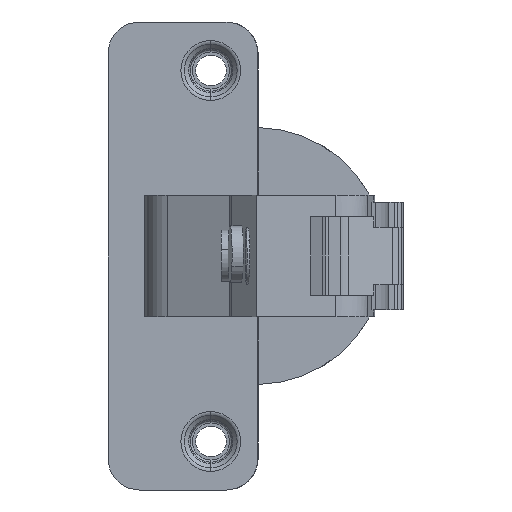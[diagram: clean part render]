
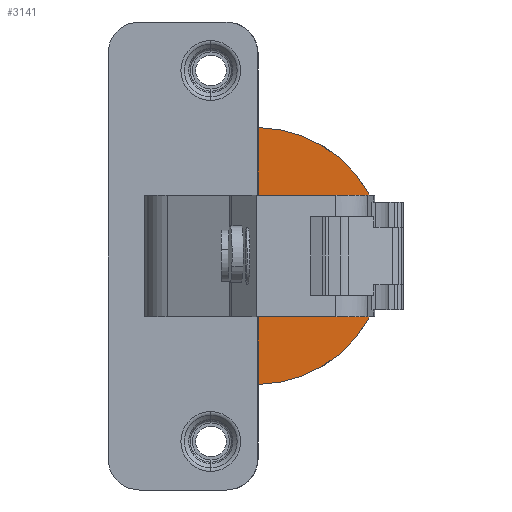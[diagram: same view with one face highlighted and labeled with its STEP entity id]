
A CAD part, left-side view. The second image highlights one B-rep face of the part: STEP entity #3141.
In plain terms, the highlighted planar face has unit normal (-1, 0.014, 0).
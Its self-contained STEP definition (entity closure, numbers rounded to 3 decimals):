
#27 = DIRECTION ( 'NONE',  ( 0., 0., 1. ) ) ;
#83 = LINE ( 'NONE', #1775, #2427 ) ;
#157 = VERTEX_POINT ( 'NONE', #497 ) ;
#174 = CARTESIAN_POINT ( 'NONE',  ( -3.973, 4.365, -5.55 ) ) ;
#243 = CARTESIAN_POINT ( 'NONE',  ( -3.953, 5.785, 0. ) ) ;
#264 = ORIENTED_EDGE ( 'NONE', *, *, #2730, .F. ) ;
#332 = VECTOR ( 'NONE', #1945, 1000. ) ;
#397 = CIRCLE ( 'NONE', #4514, 17.4 ) ;
#497 = CARTESIAN_POINT ( 'NONE',  ( -3.973, 4.365, 5.55 ) ) ;
#522 = AXIS2_PLACEMENT_3D ( 'NONE', #3849, #4982, #6177 ) ;
#541 = AXIS2_PLACEMENT_3D ( 'NONE', #6302, #6347, #2899 ) ;
#663 = DIRECTION ( 'NONE',  ( 0., 0., 1. ) ) ;
#727 = DIRECTION ( 'NONE',  ( 0., 0., -1. ) ) ;
#799 = ORIENTED_EDGE ( 'NONE', *, *, #2840, .F. ) ;
#825 = DIRECTION ( 'NONE',  ( -1., 0.014, 0. ) ) ;
#863 = DIRECTION ( 'NONE',  ( 0., 0., 1. ) ) ;
#906 = DIRECTION ( 'NONE',  ( 1., -0.014, 0. ) ) ;
#933 = VERTEX_POINT ( 'NONE', #7237 ) ;
#937 = LINE ( 'NONE', #1347, #332 ) ;
#1073 = EDGE_CURVE ( 'NONE', #5335, #6634, #1803, .T. ) ;
#1110 = VECTOR ( 'NONE', #727, 1000. ) ;
#1134 = ORIENTED_EDGE ( 'NONE', *, *, #4034, .F. ) ;
#1141 = ORIENTED_EDGE ( 'NONE', *, *, #3707, .F. ) ;
#1167 = CARTESIAN_POINT ( 'NONE',  ( -3.953, 5.785, 17.998 ) ) ;
#1182 = DIRECTION ( 'NONE',  ( 0., 0., 1. ) ) ;
#1199 = EDGE_CURVE ( 'NONE', #7214, #5230, #4086, .T. ) ;
#1275 = CARTESIAN_POINT ( 'NONE',  ( -3.956, 5.585, -17.998 ) ) ;
#1347 = CARTESIAN_POINT ( 'NONE',  ( -3.953, 5.785, -17.998 ) ) ;
#1413 = CIRCLE ( 'NONE', #3665, 18. ) ;
#1418 = CARTESIAN_POINT ( 'NONE',  ( -3.957, 5.499, 5.55 ) ) ;
#1420 = CARTESIAN_POINT ( 'NONE',  ( -3.973, 4.365, 6.95 ) ) ;
#1490 = CARTESIAN_POINT ( 'NONE',  ( -3.94, 6.685, 0. ) ) ;
#1499 = VERTEX_POINT ( 'NONE', #3732 ) ;
#1576 = VECTOR ( 'NONE', #6817, 1000. ) ;
#1596 = CARTESIAN_POINT ( 'NONE',  ( -4.125, -6.197, -4.5 ) ) ;
#1775 = CARTESIAN_POINT ( 'NONE',  ( -3.956, 5.585, 0. ) ) ;
#1798 = LINE ( 'NONE', #1167, #5490 ) ;
#1803 = LINE ( 'NONE', #5070, #4285 ) ;
#1945 = DIRECTION ( 'NONE',  ( 0.014, 1., 0. ) ) ;
#2000 = ORIENTED_EDGE ( 'NONE', *, *, #5112, .T. ) ;
#2074 = VECTOR ( 'NONE', #6659, 1000. ) ;
#2108 = CARTESIAN_POINT ( 'NONE',  ( -4.125, -6.197, 4.5 ) ) ;
#2157 = CARTESIAN_POINT ( 'NONE',  ( -3.953, 5.785, 0. ) ) ;
#2186 = AXIS2_PLACEMENT_3D ( 'NONE', #4639, #3550, #1182 ) ;
#2212 = EDGE_CURVE ( 'NONE', #5205, #1499, #6920, .T. ) ;
#2350 = ORIENTED_EDGE ( 'NONE', *, *, #3219, .F. ) ;
#2427 = VECTOR ( 'NONE', #663, 1000. ) ;
#2430 = CARTESIAN_POINT ( 'NONE',  ( -4.167, -9.175, 7.154 ) ) ;
#2730 = EDGE_CURVE ( 'NONE', #4095, #5205, #397, .T. ) ;
#2840 = EDGE_CURVE ( 'NONE', #6802, #4197, #5207, .T. ) ;
#2899 = DIRECTION ( 'NONE',  ( 0., 0., -1. ) ) ;
#2912 = ORIENTED_EDGE ( 'NONE', *, *, #4513, .F. ) ;
#2925 = CARTESIAN_POINT ( 'NONE',  ( -4.127, -6.33, 4.5 ) ) ;
#3006 = FACE_BOUND ( 'NONE', #4909, .T. ) ;
#3033 = VECTOR ( 'NONE', #6181, 1000. ) ;
#3123 = CARTESIAN_POINT ( 'NONE',  ( -4.155, -8.297, -4.5 ) ) ;
#3129 = VECTOR ( 'NONE', #863, 1000. ) ;
#3141 = ADVANCED_FACE ( 'NONE', ( #5980, #3006 ), #6376, .T. ) ;
#3142 = VECTOR ( 'NONE', #5931, 1000. ) ;
#3180 = CARTESIAN_POINT ( 'NONE',  ( -3.956, 5.585, 5.55 ) ) ;
#3219 = EDGE_CURVE ( 'NONE', #5794, #933, #83, .T. ) ;
#3306 = ORIENTED_EDGE ( 'NONE', *, *, #4161, .F. ) ;
#3334 = DIRECTION ( 'NONE',  ( -1., 0.014, 0. ) ) ;
#3365 = EDGE_CURVE ( 'NONE', #4087, #157, #5892, .T. ) ;
#3538 = CARTESIAN_POINT ( 'NONE',  ( -4.127, -6.33, -5.75 ) ) ;
#3550 = DIRECTION ( 'NONE',  ( -1., 0.014, 0. ) ) ;
#3594 = CARTESIAN_POINT ( 'NONE',  ( -3.956, 5.549, 17.998 ) ) ;
#3665 = AXIS2_PLACEMENT_3D ( 'NONE', #2157, #3334, #6677 ) ;
#3707 = EDGE_CURVE ( 'NONE', #933, #6812, #1798, .T. ) ;
#3732 = CARTESIAN_POINT ( 'NONE',  ( -4.177, -9.863, -8.893 ) ) ;
#3742 = CARTESIAN_POINT ( 'NONE',  ( -3.956, 5.585, -5.55 ) ) ;
#3834 = EDGE_CURVE ( 'NONE', #5335, #5230, #4358, .T. ) ;
#3849 = CARTESIAN_POINT ( 'NONE',  ( -4.162, -8.82, -8.3 ) ) ;
#3883 = CARTESIAN_POINT ( 'NONE',  ( -4.155, -8.297, 4.5 ) ) ;
#4034 = EDGE_CURVE ( 'NONE', #5035, #4095, #5990, .T. ) ;
#4086 = LINE ( 'NONE', #3538, #1110 ) ;
#4087 = VERTEX_POINT ( 'NONE', #174 ) ;
#4095 = VERTEX_POINT ( 'NONE', #2430 ) ;
#4161 = EDGE_CURVE ( 'NONE', #7067, #6802, #937, .T. ) ;
#4197 = VERTEX_POINT ( 'NONE', #3742 ) ;
#4275 = LINE ( 'NONE', #1418, #3142 ) ;
#4285 = VECTOR ( 'NONE', #27, 1000. ) ;
#4330 = ORIENTED_EDGE ( 'NONE', *, *, #2212, .F. ) ;
#4358 = LINE ( 'NONE', #1596, #3033 ) ;
#4484 = CARTESIAN_POINT ( 'NONE',  ( -3.956, 5.549, -17.998 ) ) ;
#4513 = EDGE_CURVE ( 'NONE', #4197, #4087, #6489, .T. ) ;
#4514 = AXIS2_PLACEMENT_3D ( 'NONE', #1490, #906, #6560 ) ;
#4639 = CARTESIAN_POINT ( 'NONE',  ( -3.953, 5.785, 0. ) ) ;
#4734 = VECTOR ( 'NONE', #7108, 1000. ) ;
#4747 = CARTESIAN_POINT ( 'NONE',  ( -4.177, -9.863, 8.893 ) ) ;
#4801 = EDGE_LOOP ( 'NONE', ( #799, #3306, #5296, #4330, #264, #1134, #2000, #1141, #2350, #5057, #6403, #2912 ) ) ;
#4909 = EDGE_LOOP ( 'NONE', ( #5271, #5258, #6613, #6048 ) ) ;
#4982 = DIRECTION ( 'NONE',  ( 1., -0.014, 0. ) ) ;
#5035 = VERTEX_POINT ( 'NONE', #4747 ) ;
#5057 = ORIENTED_EDGE ( 'NONE', *, *, #6995, .F. ) ;
#5070 = CARTESIAN_POINT ( 'NONE',  ( -4.155, -8.297, -5.75 ) ) ;
#5112 = EDGE_CURVE ( 'NONE', #5035, #6812, #1413, .T. ) ;
#5205 = VERTEX_POINT ( 'NONE', #5220 ) ;
#5207 = LINE ( 'NONE', #6254, #1576 ) ;
#5220 = CARTESIAN_POINT ( 'NONE',  ( -4.167, -9.175, -7.154 ) ) ;
#5230 = VERTEX_POINT ( 'NONE', #6419 ) ;
#5258 = ORIENTED_EDGE ( 'NONE', *, *, #1199, .F. ) ;
#5271 = ORIENTED_EDGE ( 'NONE', *, *, #3834, .T. ) ;
#5296 = ORIENTED_EDGE ( 'NONE', *, *, #6017, .T. ) ;
#5325 = CARTESIAN_POINT ( 'NONE',  ( -3.957, 5.499, -5.55 ) ) ;
#5335 = VERTEX_POINT ( 'NONE', #3123 ) ;
#5490 = VECTOR ( 'NONE', #5667, 1000. ) ;
#5584 = AXIS2_PLACEMENT_3D ( 'NONE', #243, #825, #6296 ) ;
#5667 = DIRECTION ( 'NONE',  ( -0.014, -1., 0. ) ) ;
#5794 = VERTEX_POINT ( 'NONE', #3180 ) ;
#5892 = LINE ( 'NONE', #1420, #3129 ) ;
#5931 = DIRECTION ( 'NONE',  ( 0.014, 1., 0. ) ) ;
#5980 = FACE_OUTER_BOUND ( 'NONE', #4801, .T. ) ;
#5990 = CIRCLE ( 'NONE', #541, 1.2 ) ;
#6017 = EDGE_CURVE ( 'NONE', #7067, #1499, #6333, .T. ) ;
#6048 = ORIENTED_EDGE ( 'NONE', *, *, #1073, .F. ) ;
#6177 = DIRECTION ( 'NONE',  ( 0., 0., 1. ) ) ;
#6181 = DIRECTION ( 'NONE',  ( 0.014, 1., 0. ) ) ;
#6254 = CARTESIAN_POINT ( 'NONE',  ( -3.956, 5.585, 0. ) ) ;
#6296 = DIRECTION ( 'NONE',  ( 0., 0., 1. ) ) ;
#6302 = CARTESIAN_POINT ( 'NONE',  ( -4.162, -8.82, 8.3 ) ) ;
#6333 = CIRCLE ( 'NONE', #2186, 18. ) ;
#6347 = DIRECTION ( 'NONE',  ( 1., -0.014, 0. ) ) ;
#6376 = PLANE ( 'NONE',  #5584 ) ;
#6403 = ORIENTED_EDGE ( 'NONE', *, *, #3365, .F. ) ;
#6419 = CARTESIAN_POINT ( 'NONE',  ( -4.127, -6.33, -4.5 ) ) ;
#6489 = LINE ( 'NONE', #5325, #4734 ) ;
#6560 = DIRECTION ( 'NONE',  ( -0.014, -1., 0. ) ) ;
#6613 = ORIENTED_EDGE ( 'NONE', *, *, #7072, .T. ) ;
#6634 = VERTEX_POINT ( 'NONE', #3883 ) ;
#6659 = DIRECTION ( 'NONE',  ( -0.014, -1., 0. ) ) ;
#6677 = DIRECTION ( 'NONE',  ( 0., 0., 1. ) ) ;
#6802 = VERTEX_POINT ( 'NONE', #1275 ) ;
#6812 = VERTEX_POINT ( 'NONE', #3594 ) ;
#6817 = DIRECTION ( 'NONE',  ( 0., 0., 1. ) ) ;
#6920 = CIRCLE ( 'NONE', #522, 1.2 ) ;
#6995 = EDGE_CURVE ( 'NONE', #157, #5794, #4275, .T. ) ;
#7067 = VERTEX_POINT ( 'NONE', #4484 ) ;
#7072 = EDGE_CURVE ( 'NONE', #7214, #6634, #7251, .T. ) ;
#7108 = DIRECTION ( 'NONE',  ( -0.014, -1., 0. ) ) ;
#7214 = VERTEX_POINT ( 'NONE', #2925 ) ;
#7237 = CARTESIAN_POINT ( 'NONE',  ( -3.956, 5.585, 17.998 ) ) ;
#7251 = LINE ( 'NONE', #2108, #2074 ) ;
